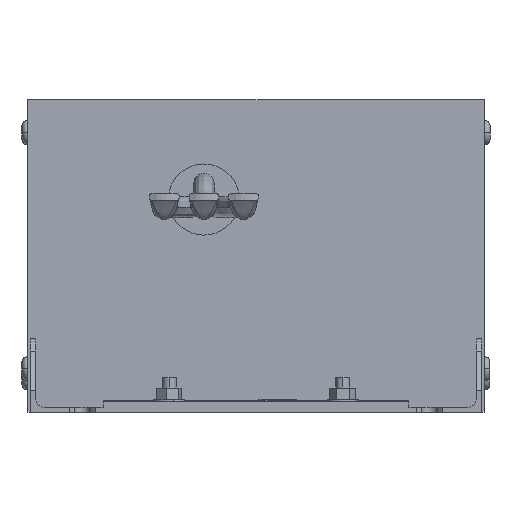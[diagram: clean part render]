
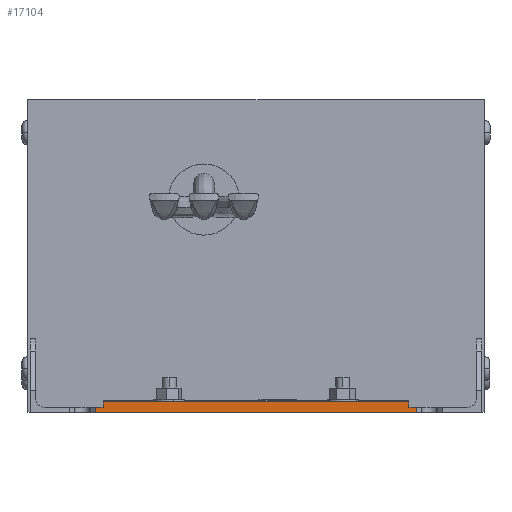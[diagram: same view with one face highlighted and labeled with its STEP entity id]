
A CAD part, front view. The second image highlights one B-rep face of the part: STEP entity #17104.
In plain terms, the highlighted planar face has unit normal (0, -1, 0).
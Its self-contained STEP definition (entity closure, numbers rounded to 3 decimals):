
#50 = VECTOR ( 'NONE', #3514, 1000. ) ;
#120 = DIRECTION ( 'NONE',  ( 1., 0., 0. ) ) ;
#307 = EDGE_CURVE ( 'NONE', #14977, #19408, #17329, .T. ) ;
#1839 = CARTESIAN_POINT ( 'NONE',  ( 92.5, -615., -3. ) ) ;
#1988 = VERTEX_POINT ( 'NONE', #19650 ) ;
#2687 = ORIENTED_EDGE ( 'NONE', *, *, #16081, .T. ) ;
#2771 = ORIENTED_EDGE ( 'NONE', *, *, #18310, .T. ) ;
#3514 = DIRECTION ( 'NONE',  ( -1., 0., 0. ) ) ;
#3846 = CARTESIAN_POINT ( 'NONE',  ( -88., -615., 3. ) ) ;
#3968 = DIRECTION ( 'NONE',  ( 0., 0., 1. ) ) ;
#4168 = CARTESIAN_POINT ( 'NONE',  ( 88., -615., 3. ) ) ;
#4624 = PLANE ( 'NONE',  #4963 ) ;
#4859 = CARTESIAN_POINT ( 'NONE',  ( -95.5, -615., -3. ) ) ;
#4963 = AXIS2_PLACEMENT_3D ( 'NONE', #11447, #9422, #13004 ) ;
#5870 = DIRECTION ( 'NONE',  ( 0., 0., -1. ) ) ;
#6269 = VECTOR ( 'NONE', #20858, 1000. ) ;
#6317 = CARTESIAN_POINT ( 'NONE',  ( 88., -615., 3. ) ) ;
#6818 = ORIENTED_EDGE ( 'NONE', *, *, #10359, .F. ) ;
#7242 = EDGE_CURVE ( 'NONE', #18620, #13741, #20593, .T. ) ;
#7479 = CARTESIAN_POINT ( 'NONE',  ( -95.5, -615., 0. ) ) ;
#7585 = LINE ( 'NONE', #1839, #14248 ) ;
#8043 = CARTESIAN_POINT ( 'NONE',  ( -92.5, -615., -3. ) ) ;
#8238 = EDGE_LOOP ( 'NONE', ( #14891, #17251, #2771, #18760, #21786, #2687, #12684, #6818 ) ) ;
#8559 = DIRECTION ( 'NONE',  ( 0., 0., -1. ) ) ;
#8821 = CARTESIAN_POINT ( 'NONE',  ( -92.5, -615., -3. ) ) ;
#8952 = DIRECTION ( 'NONE',  ( 0., 0., 1. ) ) ;
#8993 = CARTESIAN_POINT ( 'NONE',  ( -95.5, -615., 0. ) ) ;
#9422 = DIRECTION ( 'NONE',  ( 0., -1., 0. ) ) ;
#9678 = EDGE_CURVE ( 'NONE', #21306, #14977, #14335, .T. ) ;
#10359 = EDGE_CURVE ( 'NONE', #21306, #19144, #15816, .T. ) ;
#10695 = LINE ( 'NONE', #15800, #21719 ) ;
#10963 = CARTESIAN_POINT ( 'NONE',  ( -88., -615., 3. ) ) ;
#11013 = EDGE_CURVE ( 'NONE', #18620, #12821, #15673, .T. ) ;
#11447 = CARTESIAN_POINT ( 'NONE',  ( -95.5, -615., -3. ) ) ;
#12684 = ORIENTED_EDGE ( 'NONE', *, *, #15400, .T. ) ;
#12821 = VERTEX_POINT ( 'NONE', #21290 ) ;
#12857 = CARTESIAN_POINT ( 'NONE',  ( 88., -615., 0. ) ) ;
#13004 = DIRECTION ( 'NONE',  ( 1., 0., 0. ) ) ;
#13011 = CARTESIAN_POINT ( 'NONE',  ( 92.5, -615., 0. ) ) ;
#13741 = VERTEX_POINT ( 'NONE', #8821 ) ;
#14248 = VECTOR ( 'NONE', #8952, 1000. ) ;
#14261 = VECTOR ( 'NONE', #120, 1000. ) ;
#14335 = LINE ( 'NONE', #4168, #17285 ) ;
#14891 = ORIENTED_EDGE ( 'NONE', *, *, #9678, .T. ) ;
#14977 = VERTEX_POINT ( 'NONE', #6317 ) ;
#15400 = EDGE_CURVE ( 'NONE', #1988, #19144, #7585, .T. ) ;
#15673 = LINE ( 'NONE', #8993, #18394 ) ;
#15800 = CARTESIAN_POINT ( 'NONE',  ( -88., -615., 3. ) ) ;
#15816 = LINE ( 'NONE', #7479, #6269 ) ;
#16081 = EDGE_CURVE ( 'NONE', #13741, #1988, #20472, .T. ) ;
#16496 = VECTOR ( 'NONE', #8559, 1000. ) ;
#17104 = ADVANCED_FACE ( 'NONE', ( #21681 ), #4624, .T. ) ;
#17251 = ORIENTED_EDGE ( 'NONE', *, *, #307, .T. ) ;
#17285 = VECTOR ( 'NONE', #3968, 1000. ) ;
#17329 = LINE ( 'NONE', #3846, #50 ) ;
#18310 = EDGE_CURVE ( 'NONE', #19408, #12821, #10695, .T. ) ;
#18394 = VECTOR ( 'NONE', #19249, 1000. ) ;
#18620 = VERTEX_POINT ( 'NONE', #18800 ) ;
#18760 = ORIENTED_EDGE ( 'NONE', *, *, #11013, .F. ) ;
#18800 = CARTESIAN_POINT ( 'NONE',  ( -92.5, -615., 0. ) ) ;
#19144 = VERTEX_POINT ( 'NONE', #13011 ) ;
#19249 = DIRECTION ( 'NONE',  ( 1., 0., 0. ) ) ;
#19408 = VERTEX_POINT ( 'NONE', #10963 ) ;
#19650 = CARTESIAN_POINT ( 'NONE',  ( 92.5, -615., -3. ) ) ;
#20472 = LINE ( 'NONE', #4859, #14261 ) ;
#20593 = LINE ( 'NONE', #8043, #16496 ) ;
#20858 = DIRECTION ( 'NONE',  ( 1., 0., 0. ) ) ;
#21290 = CARTESIAN_POINT ( 'NONE',  ( -88., -615., 0. ) ) ;
#21306 = VERTEX_POINT ( 'NONE', #12857 ) ;
#21681 = FACE_OUTER_BOUND ( 'NONE', #8238, .T. ) ;
#21719 = VECTOR ( 'NONE', #5870, 1000. ) ;
#21786 = ORIENTED_EDGE ( 'NONE', *, *, #7242, .T. ) ;
